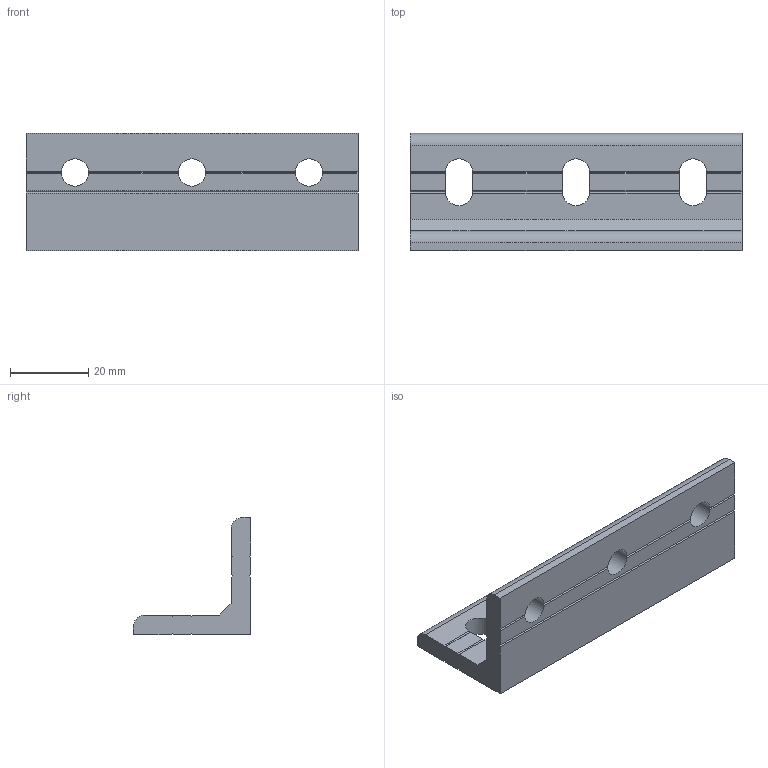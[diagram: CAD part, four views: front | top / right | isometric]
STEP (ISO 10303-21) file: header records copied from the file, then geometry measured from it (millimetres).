
FILE_DESCRIPTION(/* description */ (''),/* implementation_level */ '2;1');
FILE_NAME(/* name */ 'C:\Users\AMS45\Documents\Inventor\AMS\ブラケット\M6\M6_stp\ABL-3085-6.ipt.stp',/* time_stamp */ '2016-10-05T13:22:24+09:00',/* author */ ('AMS45'),/* organization */ (''),/* preprocessor_version */ 'ST-DEVELOPER v15.2',/* originating_system */ 'Autodesk Inventor 2014',/* authorisation */ '');
FILE_SCHEMA (('AUTOMOTIVE_DESIGN { 1 0 10303 214 3 1 1 }'));
Length unit declared in the file: metre
Products named in the file (1): ABL-3085-6
Bounding box: 85 x 30 x 30 mm (x, y, z)
Volume: 21699.8 mm3; surface area: 10654 mm2
Topology: 1 solids, 1 shells, 92 faces, 276 edges, 174 vertices
Faces by surface type: plane 81, cylinder 11
Full cylindrical faces by diameter (mm): 7 x3
Entity records: 3116 total; most frequent: ORIENTED_EDGE 546, CARTESIAN_POINT 540, DIRECTION 535, EDGE_CURVE 273, LINE 197, VECTOR 197, VERTEX_POINT 174, AXIS2_PLACEMENT_3D 169
